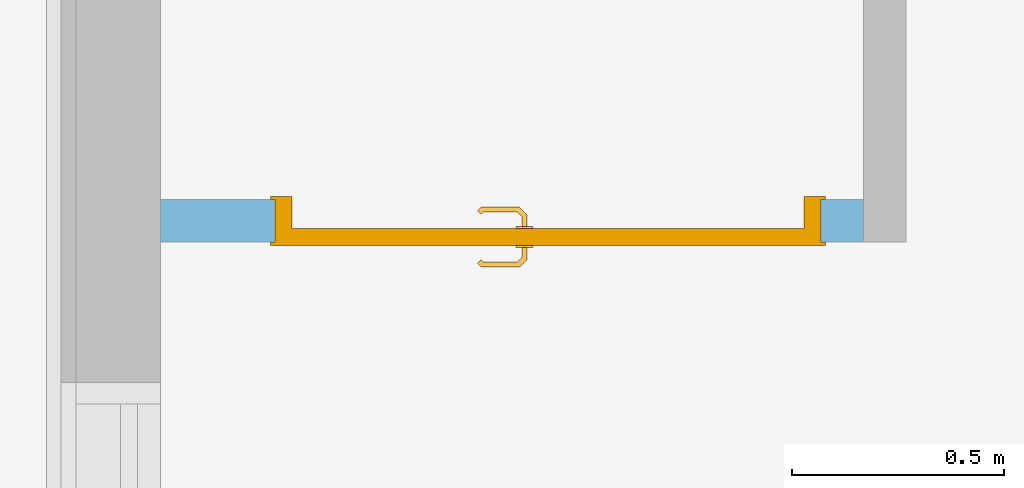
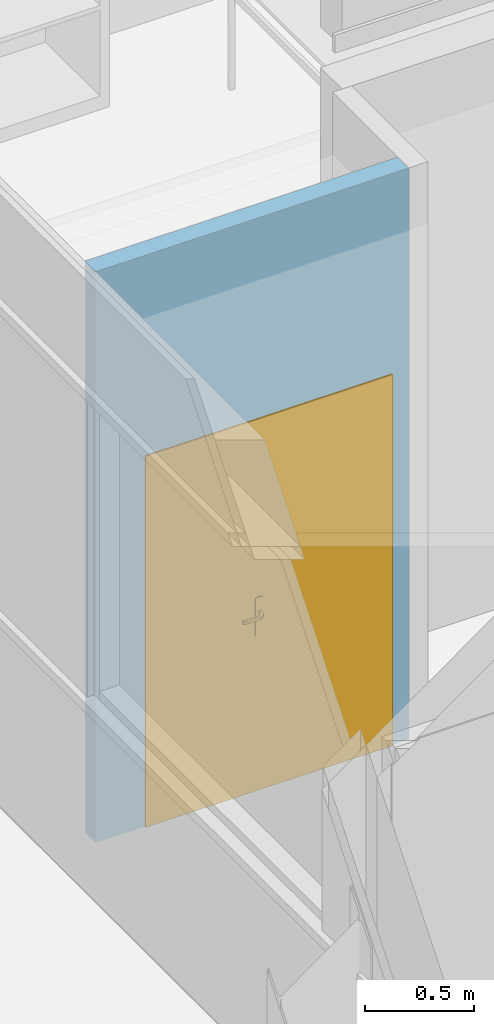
# One storey, part 95 of 137: 1 door, 1 opening, plus 1 element that does not belong to this part.
"""IFC2X3 building model written with IfcOpenShell, lengths in centimetres."""

from ifc_helpers import new_model, entity, si_unit, converted_unit, derived_unit, direction, frame, frame_2d, origin, place, context, subcontext, project, spatial, polyline, rectangle, extrude, clip, bounded_halfspace, faceted_brep, source, transform, mapped, material, material_list, layer, layer_set, layer_usage, type_object, type_shapes, element, fill, save


model = new_model("IFC2X3")

# Units and contexts
model_context = context("Model", 3, precision=0.001, world=origin(), true_north=direction((6.12303176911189e-17, 1.0)))
body_context = subcontext(model_context, "Body", "Model", "MODEL_VIEW")
ifc_project = project(units=[si_unit("LENGTHUNIT", "METRE", prefix="CENTI"), si_unit("AREAUNIT", "SQUARE_METRE"), si_unit("VOLUMEUNIT", "CUBIC_METRE"), converted_unit("PLANEANGLEUNIT", "DEGREE", entity("IfcRatioMeasure", 0.0174532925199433), si_unit("PLANEANGLEUNIT", "RADIAN"), dimensions=[0, 0, 0, 0, 0, 0, 0]), si_unit("MASSUNIT", "GRAM", prefix="KILO"), si_unit("TIMEUNIT", "SECOND"), si_unit("FREQUENCYUNIT", "HERTZ"), si_unit("THERMODYNAMICTEMPERATUREUNIT", "DEGREE_CELSIUS"), derived_unit("THERMALTRANSMITTANCEUNIT", [(si_unit("MASSUNIT", "GRAM", prefix="KILO"), 1), (si_unit("THERMODYNAMICTEMPERATUREUNIT", "KELVIN"), -1), (si_unit("TIMEUNIT", "SECOND"), -3)]), derived_unit("VOLUMETRICFLOWRATEUNIT", [(si_unit("LENGTHUNIT", "METRE"), 3), (si_unit("TIMEUNIT", "SECOND"), -1)]), si_unit("ELECTRICCURRENTUNIT", "AMPERE"), si_unit("ELECTRICVOLTAGEUNIT", "VOLT"), si_unit("POWERUNIT", "WATT"), si_unit("FORCEUNIT", "NEWTON", prefix="KILO"), si_unit("ILLUMINANCEUNIT", "LUX"), si_unit("LUMINOUSFLUXUNIT", "LUMEN"), si_unit("LUMINOUSINTENSITYUNIT", "CANDELA"), derived_unit("USERDEFINED", [(si_unit("MASSUNIT", "GRAM", prefix="KILO"), -1), (si_unit("LENGTHUNIT", "METRE"), -2), (si_unit("TIMEUNIT", "SECOND"), 3), (si_unit("LUMINOUSFLUXUNIT", "LUMEN"), 1)]), derived_unit("LINEARVELOCITYUNIT", [(si_unit("LENGTHUNIT", "METRE"), 1), (si_unit("TIMEUNIT", "SECOND"), -1)]), si_unit("PRESSUREUNIT", "PASCAL"), derived_unit("USERDEFINED", [(si_unit("LENGTHUNIT", "METRE"), -2), (si_unit("MASSUNIT", "GRAM", prefix="KILO"), 1), (si_unit("TIMEUNIT", "SECOND"), -2)])], contexts=[model_context])

# Site, building, storey
site_placement = place(None, frame((8.62739174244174, -249.285249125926, 0.0)))
site = spatial("IfcSite", under=ifc_project, at=site_placement, Name="Default", CompositionType="ELEMENT")
building_placement = place(site_placement, origin())
building = spatial("IfcBuilding", under=site, at=building_placement, CompositionType="ELEMENT")
storey_placement = place(building_placement, origin())
storey = spatial("IfcBuildingStorey", under=building, at=storey_placement, Name="RDC", CompositionType="ELEMENT", Elevation=-8.82465566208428e-11)

# Wall, opening, door
ifc_material_1 = material(Name="Stuc")
ifc_layer = layer(ifc_material_1, 10.0)
ifc_layer_set = layer_set([ifc_layer], Name="Mur de base:CIM 10")
ifc_layer_usage = layer_usage(ifc_layer_set, "AXIS2", "NEGATIVE", 5.0)
wall_type = type_object("IfcWallType", Name="Mur de base:CIM 10", PredefinedType="STANDARD", material=ifc_layer_set)
wall_placement = place(storey_placement, frame((3219.90482780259, 3228.18519336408, 0.0), z_axis=(0.0, 0.0, 1.0), x_axis=(-1.0, 0.0, 0.0)))
wall = element("IfcWallStandardCase", 1, at=wall_placement, inside=storey, type_object=wall_type, material=ifc_layer_usage, Name="Mur de base:CIM 10", ObjectType="Mur de base:CIM 10", context=body_context, shape_type="Clipping", body=[
    clip(extrude(rectangle(XDim=166.000000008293, YDim=10.0000000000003, at=frame_2d((83.0000000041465, 1.4210854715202e-14), x_axis=(-1.0, 0.0))), origin(), (0.0, 0.0, 1.0), 320.000000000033), bounded_halfspace(frame((0.0, -5.0, 320.0), z_axis=(0.0, 0.0, -1.0), x_axis=(0.0, -1.0, 0.0)), True, frame((0.0, -5.0, 320.0)), polyline([(0.0, 0.0), (166.0, 0.0), (166.0, 10.0), (0.0, 10.0), (0.0, 0.0)]))),
])
opening_placement = place(wall_placement, frame((10.0, -5.0, 0.0)))
opening = element("IfcOpeningElement", 2, at=opening_placement, cuts=wall, Name="Double(R)_bois_mu:123 x 204 cm:1", ObjectType="Opening", context=body_context, shape_type="SweptSolid", body=[
    extrude(rectangle(XDim=206.999999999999, YDim=129.0, at=frame_2d((103.499999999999, 64.4999999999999), x_axis=(1.0, 0.0))), frame((0.0, 0.0, 0.0), z_axis=(0.0, 1.0, 0.0), x_axis=(0.0, 0.0, 1.0)), (0.0, 0.0, 1.0), 10.0),
])
ifc_material_2 = material(Name="Porte - Poignée")
ifc_material_3 = material(Name="Porte - Cadre")
ifc_material_4 = material(Name="Porte - Panneau")
ifc_material_list_1 = material_list([ifc_material_2, ifc_material_3, ifc_material_4])
ifc_material_list_2 = material_list([ifc_material_2, ifc_material_3, ifc_material_4])
door_style = type_object("IfcDoorStyle", Name="123 x 204 cm", ConstructionType="NOTDEFINED", OperationType="DOUBLE_DOOR_SINGLE_SWING", ParameterTakesPrecedence=False, Sizeable=False, material=ifc_material_list_2)
shared_shape = source(origin(), body_context, "Body", "Brep", [
    faceted_brep([(59.2025298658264, 3.69999999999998, 100.778044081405), (58.7974701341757, 3.69999999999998, 100.778044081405), (58.3999999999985, 3.69999999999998, 100.699999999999), (58.4000000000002, 3.69999999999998, 99.3000000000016), (58.7974701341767, 3.69999999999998, 99.2219559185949), (59.2025298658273, 3.69999999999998, 99.2219559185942), (59.6000000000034, 3.69999999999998, 99.2999999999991), (59.600000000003, 3.69999999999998, 100.699999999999), (58.3999999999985, 5.94852045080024, 100.699999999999), (58.3999999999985, 5.94852045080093, 99.3000000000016), (58.7974701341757, 6.1131579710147, 100.778044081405), (59.2025298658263, 6.2809392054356, 100.778044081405), (57.583890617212, 7.89957845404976, 100.778044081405), (57.4161093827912, 7.49451872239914, 100.778044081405), (49.0793122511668, 7.49451872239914, 100.778044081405), (48.9115310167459, 7.89957845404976, 100.778044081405), (48.145104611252, 7.13315204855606, 100.778044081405), (48.4315250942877, 6.84673156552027, 100.778044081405), (59.600000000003, 6.44557672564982, 100.699999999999), (59.6000000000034, 6.44557672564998, 99.2999999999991), (59.2025298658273, 6.28093920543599, 99.2219559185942), (58.7974701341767, 6.11315797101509, 99.2219559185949), (57.4161093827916, 7.49451872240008, 99.2219559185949), (57.5838906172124, 7.8995784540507, 99.2219559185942), (48.9115310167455, 7.8995784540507, 99.2219559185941), (49.0793122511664, 7.49451872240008, 99.2219559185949), (48.4315250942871, 6.84673156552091, 99.2219559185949), (48.1451046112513, 7.1331520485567, 99.2219559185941), (57.2514718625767, 7.09704858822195, 100.699999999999), (57.2514718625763, 7.09704858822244, 99.3000000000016), (57.7485281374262, 8.29704858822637, 100.699999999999), (57.7485281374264, 8.29704858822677, 99.2999999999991), (53.247710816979, 7.09704858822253, 100.699999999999), (49.2439497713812, 7.09704858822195, 100.699999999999), (49.2439497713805, 7.09704858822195, 99.3000000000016), (53.247710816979, 7.09704858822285, 99.3000000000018), (53.2477108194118, 7.71249275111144, 100.787811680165), (52.7399422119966, 8.29704858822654, 100.699999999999), (48.7468934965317, 8.29704858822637, 100.699999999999), (53.7554791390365, 8.29704858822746, 99.2999999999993), (48.7468934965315, 8.29704858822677, 99.2999999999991), (53.247710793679, 7.71249274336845, 99.2121883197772), (47.8640507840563, 7.41420587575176, 100.699999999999), (47.8640507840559, 7.41420587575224, 99.2999999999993), (48.7125789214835, 6.5656777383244, 99.3000000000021), (48.7125789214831, 6.56567773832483, 100.699999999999)], [[[0, 1, 2, 3, 4, 5, 6, 7]], [[8, 9, 3, 2]], [[1, 10, 8, 2]], [[1, 0, 11, 12, 13, 10]], [[14, 15, 16, 17]], [[7, 18, 11, 0]], [[18, 7, 6, 19]], [[6, 5, 20, 19]], [[5, 4, 21, 22, 23, 20]], [[24, 25, 26, 27]], [[4, 3, 9, 21]], [[28, 29, 9, 8]], [[8, 10, 13, 28]], [[18, 30, 12, 11]], [[31, 30, 18, 19]], [[19, 20, 23, 31]], [[21, 9, 29, 22]], [[29, 28, 32, 33, 34, 35]], [[36, 32, 13]], [[37, 38, 15]], [[37, 12, 30]], [[36, 12, 37]], [[14, 32, 36]], [[36, 15, 14]], [[28, 13, 32]], [[32, 14, 33]], [[12, 36, 13]], [[15, 36, 37]], [[30, 31, 39, 40, 38, 37]], [[23, 41, 39]], [[24, 39, 41]], [[39, 31, 23]], [[39, 24, 40]], [[22, 35, 41]], [[41, 23, 22]], [[41, 35, 25]], [[35, 22, 29]], [[34, 25, 35]], [[24, 41, 25]], [[17, 16, 42, 43, 27, 26, 44, 45]], [[45, 44, 34, 33]], [[33, 14, 17, 45]], [[15, 38, 42, 16]], [[43, 42, 38, 40]], [[24, 27, 43, 40]], [[34, 44, 26, 25]]]),
    faceted_brep([(58.7974701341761, -1.30000000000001, 100.778044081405), (59.2025298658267, -1.30000000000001, 100.778044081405), (59.6000000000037, -1.30000000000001, 100.699999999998), (59.6000000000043, -1.30000000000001, 99.2999999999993), (59.2025298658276, -1.30000000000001, 99.2219559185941), (58.7974701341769, -1.30000000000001, 99.2219559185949), (58.3999999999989, -1.30000000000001, 99.3000000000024), (58.3999999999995, -1.30000000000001, 100.699999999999), (59.2025298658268, -3.90045754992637, 100.778044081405), (59.6000000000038, -4.06509507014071, 100.699999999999), (58.7974701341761, -3.73267631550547, 100.778044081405), (57.4298602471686, -5.10028620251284, 100.778044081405), (57.5976414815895, -5.50534593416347, 100.778044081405), (48.9142453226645, -5.50534593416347, 100.778044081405), (49.0820265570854, -5.10028620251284, 100.778044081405), (48.4342394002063, -4.4524990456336, 100.778044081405), (48.1478189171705, -4.73891952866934, 100.778044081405), (58.3999999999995, -3.56803879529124, 100.699999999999), (58.3999999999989, -3.56803879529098, 99.3000000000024), (58.7974701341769, -3.7326763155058, 99.2219559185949), (59.2025298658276, -3.9004575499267, 99.2219559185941), (57.5976414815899, -5.50534593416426, 99.2219559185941), (57.429860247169, -5.10028620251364, 99.2219559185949), (49.0820265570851, -5.10028620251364, 99.2219559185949), (48.9142453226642, -5.50534593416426, 99.2219559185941), (48.14781891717, -4.73891952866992, 99.2219559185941), (48.4342394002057, -4.45249904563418, 99.2219559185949), (59.6000000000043, -4.06509507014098, 99.2999999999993), (57.762279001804, -5.90281606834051, 100.699999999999), (57.2652227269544, -4.70281606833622, 100.699999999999), (57.2652227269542, -4.70281606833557, 99.3000000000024), (57.7622790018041, -5.90281606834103, 99.2999999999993), (53.255943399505, -5.31828027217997, 100.787811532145), (53.7692302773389, -5.90281606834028, 100.699999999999), (48.7496078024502, -5.90281606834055, 100.699999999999), (53.2559434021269, -4.70281606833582, 100.699999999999), (49.2466640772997, -4.70281606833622, 100.699999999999), (53.2559436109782, -4.70281606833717, 99.3000000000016), (49.2466640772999, -4.70281606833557, 99.3000000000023), (53.2559434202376, -5.31828027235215, 99.2121884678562), (52.7426572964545, -5.90281606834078, 99.2999999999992), (48.7496078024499, -5.90281606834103, 99.2999999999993), (48.7152932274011, -4.17144521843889, 99.3000000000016), (47.8667650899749, -5.01997335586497, 99.2999999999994), (47.8667650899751, -5.01997335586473, 100.699999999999), (48.7152932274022, -4.17144521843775, 100.699999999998)], [[[0, 1, 2, 3, 4, 5, 6, 7]], [[2, 1, 8, 9]], [[1, 0, 10, 11, 12, 8]], [[13, 14, 15, 16]], [[0, 7, 17, 10]], [[18, 17, 7, 6]], [[5, 19, 18, 6]], [[5, 4, 20, 21, 22, 19]], [[23, 24, 25, 26]], [[3, 27, 20, 4]], [[9, 27, 3, 2]], [[9, 8, 12, 28]], [[10, 17, 29, 11]], [[30, 29, 17, 18]], [[18, 19, 22, 30]], [[20, 27, 31, 21]], [[28, 31, 27, 9]], [[12, 32, 33]], [[13, 33, 32]], [[33, 28, 12]], [[33, 13, 34]], [[11, 35, 32]], [[32, 12, 11]], [[32, 35, 14]], [[35, 11, 29]], [[36, 14, 35]], [[13, 32, 14]], [[29, 30, 37, 38, 36, 35]], [[39, 37, 22]], [[40, 41, 24]], [[40, 21, 31]], [[39, 21, 40]], [[23, 37, 39]], [[39, 24, 23]], [[30, 22, 37]], [[37, 23, 38]], [[21, 39, 22]], [[24, 39, 40]], [[31, 28, 33, 34, 41, 40]], [[42, 26, 25, 43, 44, 16, 15, 45]], [[13, 16, 44, 34]], [[36, 45, 15, 14]], [[42, 45, 36, 38]], [[38, 23, 26, 42]], [[24, 41, 43, 25]], [[44, 43, 41, 34]]]),
    faceted_brep([(59.0, 3.19999999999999, 86.4641016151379), (60.0352761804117, 3.19999999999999, 86.6003983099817), (61.0, 3.19999999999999, 87.0), (61.0, 3.19999999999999, 108.0), (60.0352761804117, 3.19999999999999, 108.399601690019), (59.0, 3.19999999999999, 108.535898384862), (57.9647238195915, 3.19999999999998, 108.399601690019), (57.0, 3.19999999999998, 108.0), (57.0, 3.19999999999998, 87.0), (57.9647238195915, 3.19999999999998, 86.6003983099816), (59.0, 3.69999999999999, 108.535898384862), (60.0352761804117, 3.69999999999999, 108.399601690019), (61.0, 3.69999999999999, 108.0), (61.0, 3.69999999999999, 87.0), (60.0352761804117, 3.69999999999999, 86.6003983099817), (59.0, 3.69999999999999, 86.4641016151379), (57.9647238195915, 3.69999999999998, 86.6003983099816), (57.0, 3.69999999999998, 87.0), (57.0, 3.69999999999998, 108.0), (57.9647238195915, 3.69999999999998, 108.399601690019)], [[[0, 1, 2, 3, 4, 5, 6, 7, 8, 9]], [[10, 11, 12, 13, 14, 15, 16, 17, 18, 19]], [[6, 19, 18, 7]], [[5, 10, 19, 6]], [[4, 11, 10, 5]], [[4, 3, 12, 11]], [[12, 3, 2, 13]], [[1, 14, 13, 2]], [[0, 15, 14, 1]], [[9, 16, 15, 0]], [[9, 8, 17, 16]], [[17, 8, 7, 18]]]),
    faceted_brep([(59.0, -1.30000000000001, 86.4641016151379), (60.0352761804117, -1.30000000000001, 86.6003983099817), (61.0, -1.3, 87.0), (61.0, -1.3, 108.0), (60.0352761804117, -1.30000000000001, 108.399601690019), (59.0, -1.30000000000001, 108.535898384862), (57.9647238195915, -1.30000000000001, 108.399601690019), (57.0, -1.30000000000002, 108.0), (57.0, -1.30000000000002, 87.0), (57.9647238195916, -1.30000000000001, 86.6003983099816), (61.0, -0.800000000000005, 108.0), (61.0, -0.800000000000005, 87.0), (60.0352761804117, -0.800000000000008, 86.6003983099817), (59.0, -0.800000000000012, 86.4641016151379), (57.9647238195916, -0.800000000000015, 86.6003983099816), (57.0, -0.800000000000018, 87.0), (57.0, -0.800000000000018, 108.0), (57.9647238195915, -0.800000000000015, 108.399601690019), (59.0, -0.800000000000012, 108.535898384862), (60.0352761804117, -0.800000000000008, 108.399601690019)], [[[0, 1, 2, 3, 4, 5, 6, 7, 8, 9]], [[10, 11, 12, 13, 14, 15, 16, 17, 18, 19]], [[1, 12, 11, 2]], [[0, 13, 12, 1]], [[9, 14, 13, 0]], [[9, 8, 15, 14]], [[15, 8, 7, 16]], [[6, 17, 16, 7]], [[5, 18, 17, 6]], [[4, 19, 18, 5]], [[4, 3, 10, 19]], [[10, 3, 2, 11]]]),
    faceted_brep([(129.0, 0.0, 0.0), (130.0, 0.0, 0.0), (130.0, -0.799999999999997, 0.0), (126.0, -0.799999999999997, 0.0), (126.0, 3.2, 0.0), (125.0, 3.2, 0.0), (125.0, 10.8000000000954, 0.0), (130.0, 10.8000000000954, 0.0), (130.0, 10.0, 0.0), (129.0, 10.0, 0.0), (129.0, 10.0, 207.0), (129.0, 0.0, 207.0), (130.0, 10.0, 208.0), (-1.0, 10.0, 208.0), (-1.0, 10.0, 0.0), (0.0, 10.0, 0.0), (0.0, 10.0, 207.0), (130.0, 10.8000000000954, 208.0), (125.0, 10.8000000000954, 203.0), (4.0, 10.8000000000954, 203.0), (4.0, 10.8000000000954, 0.0), (-1.0, 10.8000000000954, 0.0), (-1.0, 10.8000000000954, 208.0), (125.0, 3.2, 203.0), (126.0, 3.2, 204.0), (3.0, 3.2, 204.0), (3.0, 3.2, 0.0), (4.0, 3.2, 0.0), (4.0, 3.2, 203.0), (126.0, -0.799999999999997, 204.0), (130.0, -0.799999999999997, 208.0), (-1.0, -0.799999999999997, 208.0), (-1.0, -0.799999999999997, 0.0), (3.0, -0.799999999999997, 0.0), (3.0, -0.799999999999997, 204.0), (130.0, 0.0, 208.0), (0.0, 0.0, 207.0), (0.0, 0.0, 0.0), (-1.0, 0.0, 0.0), (-1.0, 0.0, 208.0)], [[[0, 1, 2, 3, 4, 5, 6, 7, 8, 9]], [[9, 10, 11, 0]], [[8, 12, 13, 14, 15, 16, 10, 9]], [[7, 17, 12, 8]], [[6, 18, 19, 20, 21, 22, 17, 7]], [[5, 23, 18, 6]], [[4, 24, 25, 26, 27, 28, 23, 5]], [[3, 29, 24, 4]], [[2, 30, 31, 32, 33, 34, 29, 3]], [[1, 35, 30, 2]], [[0, 11, 36, 37, 38, 39, 35, 1]], [[16, 15, 37, 36]], [[37, 15, 14, 21, 20, 27, 26, 33, 32, 38]], [[22, 21, 14, 13]], [[28, 27, 20, 19]], [[34, 33, 26, 25]], [[39, 38, 32, 31]], [[10, 16, 36, 11]], [[17, 22, 13, 12]], [[23, 28, 19, 18]], [[29, 34, 25, 24]], [[35, 39, 31, 30]]]),
    faceted_brep([(3.0, -0.799999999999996, 0.0), (64.5000000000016, -0.799999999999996, 0.0), (64.5000000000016, -0.799999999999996, 204.0), (3.0, -0.799999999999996, 204.0), (3.0, 3.2, 0.0), (3.0, 3.2, 204.0), (64.5000000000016, 3.2, 204.0), (64.5000000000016, 3.2, 0.0)], [[[0, 1, 2, 3]], [[4, 5, 6, 7]], [[3, 5, 4, 0]], [[2, 6, 5, 3]], [[1, 7, 6, 2]], [[0, 4, 7, 1]]]),
    faceted_brep([(126.0, -0.799999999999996, 204.0), (64.5000000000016, -0.799999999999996, 204.0), (64.5000000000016, -0.799999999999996, 0.0), (126.0, -0.799999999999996, 0.0), (126.0, 3.2, 204.0), (126.0, 3.2, 0.0), (64.5000000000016, 3.2, 0.0), (64.5000000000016, 3.2, 204.0)], [[[0, 1, 2, 3]], [[4, 5, 6, 7]], [[3, 5, 4, 0]], [[2, 6, 5, 3]], [[1, 7, 6, 2]], [[0, 4, 7, 1]]]),
])
type_shapes(door_style, [shared_shape])
door_placement = place(opening_placement, frame((129.0, 10.0, 0.0), z_axis=(0.0, 0.0, 1.0), x_axis=(-1.0, 0.0, 0.0)))
door = element("IfcDoor", 3, at=door_placement, inside=storey, type_object=door_style, material=ifc_material_list_1, Name="Double(R)_bois_mu:123 x 204 cm", ObjectType="123 x 204 cm", OverallHeight=206.999999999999, OverallWidth=129.0, context=body_context, shape_type="MappedRepresentation", body=[
    mapped(shared_shape, transform((0.0, 0.0, 0.0), scale=1.0)),
])
fill(opening, door)

save(model, "model.ifc")
